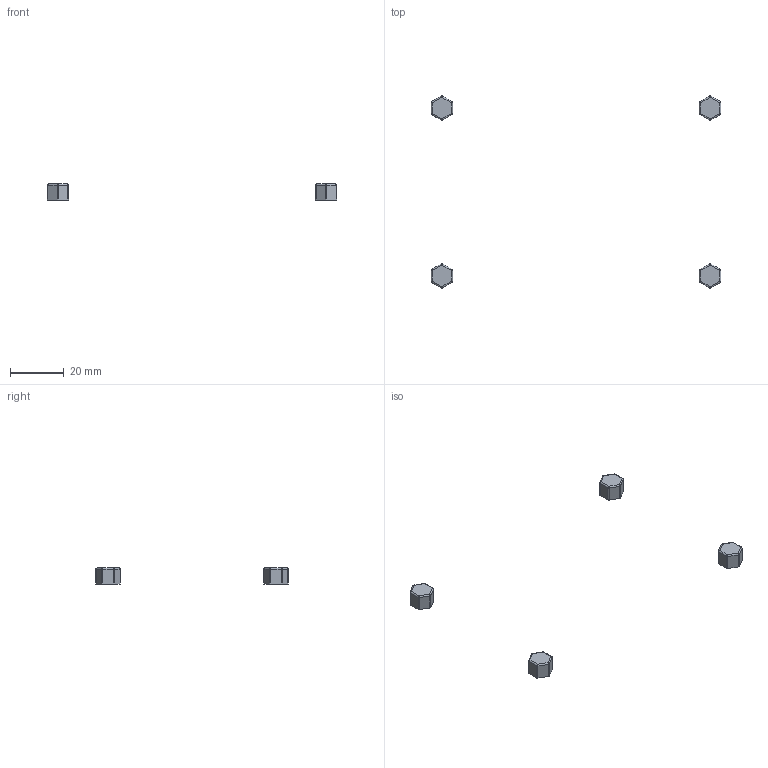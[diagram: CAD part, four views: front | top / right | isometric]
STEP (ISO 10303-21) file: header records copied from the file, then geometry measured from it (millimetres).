
FILE_DESCRIPTION(/* description */ (''),/* implementation_level */ '2;1');
FILE_NAME(/* name */ 'CASE_FE.stp',/* time_stamp */ '2026-03-11T19:55:20+01:00',/* author */ ('Mischl'),/* organization */ (''),/* preprocessor_version */ 'ST-DEVELOPER v19.2',/* originating_system */ 'Autodesk Inventor 2024',/* authorisation */ '');
FILE_SCHEMA (('AUTOMOTIVE_DESIGN { 1 0 10303 214 3 1 1 }'));
Length unit declared in the file: inch
Products named in the file (1): Füsse
Bounding box: 108 x 71.58 x 6 mm (x, y, z)
Volume: 1219.9 mm3; surface area: 1225.3 mm2
Topology: 4 solids, 4 shells, 116 faces, 240 edges, 136 vertices
Faces by surface type: cylinder 52, plane 36, sphere 24, cone 4
Full cylindrical faces by diameter (mm): 2.5 x4
Entity records: 3062 total; most frequent: DIRECTION 586, CARTESIAN_POINT 493, ORIENTED_EDGE 480, EDGE_CURVE 240, AXIS2_PLACEMENT_3D 229, VERTEX_POINT 136, LINE 128, VECTOR 128
